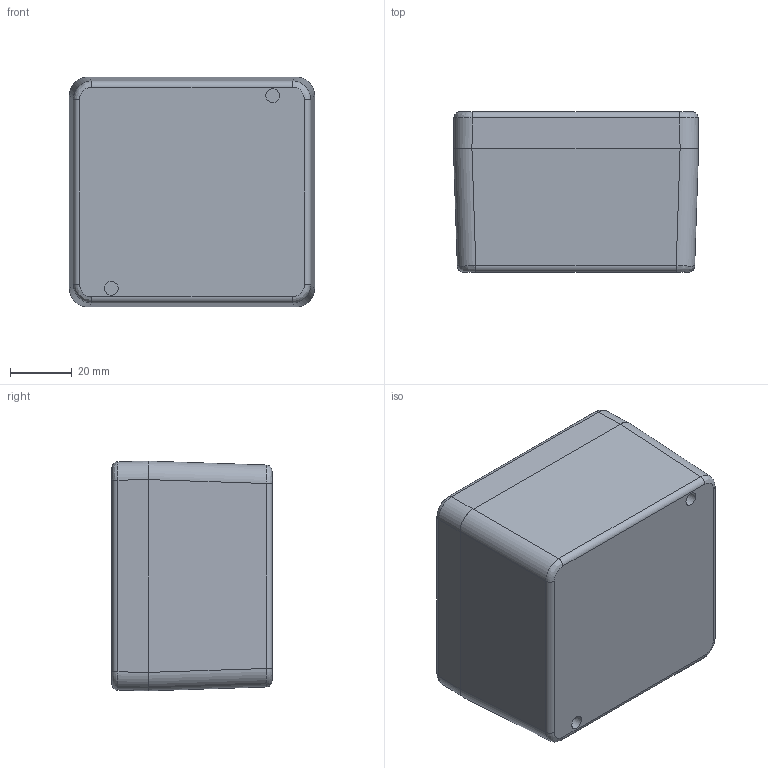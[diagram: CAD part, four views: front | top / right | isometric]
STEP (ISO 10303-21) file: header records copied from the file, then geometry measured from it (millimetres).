
FILE_DESCRIPTION(/* description */ (''),/* implementation_level */ '2;1');
FILE_NAME(/* name */ 'E:\Eng\Customer Service\Drawings\1590Z\STEP\1590Z100\1590Z100.iam.stp',/* time_stamp */ '2015-04-20T08:46:14-04:00',/* author */ ('gdineen'),/* organization */ (''),/* preprocessor_version */ 'ST-DEVELOPER v15.6',/* originating_system */ 'Autodesk Inventor 2015',/* authorisation */ '');
FILE_SCHEMA (('AUTOMOTIVE_DESIGN { 1 0 10303 214 3 1 1 }'));
Products named in the file (6): 1590Z100 Box; 1590Z100 Lid; 1590Z100 GASKET; 1590Z100PL; SC576 (screw M4-0.7X 20mm PN); 1590Z100
Assembly tree (8 placements, depth 2):
  1590Z100
    1590Z100 Box
    1590Z100 Lid
    1590Z100 GASKET
    1590Z100PL
    SC576 (screw M4-0.7X 20mm PN)  x4
Bounding box: 79.6 x 52 x 74.6 mm (x, y, z)
Volume: 114762.3 mm3; surface area: 67269.6 mm2
Topology: 8 solids, 8 shells, 515 faces, 1328 edges, 864 vertices
Faces by surface type: plane 247, cylinder 112, cone 86, torus 34, bspline 20, sphere 16
Full cylindrical faces by diameter (mm): 3.242 x10, 3.43 x4, 3.5 x4, 3.88 x4, 4.4 x4, 4.496 x4, 4.5 x2, 4.7 x4, 5.5 x2, 5.971 x2, 7.6 x4
Entity records: 13129 total; most frequent: CARTESIAN_POINT 2778, DIRECTION 2228, ORIENTED_EDGE 2014, EDGE_CURVE 1007, AXIS2_PLACEMENT_3D 845, VERTEX_POINT 673, LINE 538, VECTOR 538
